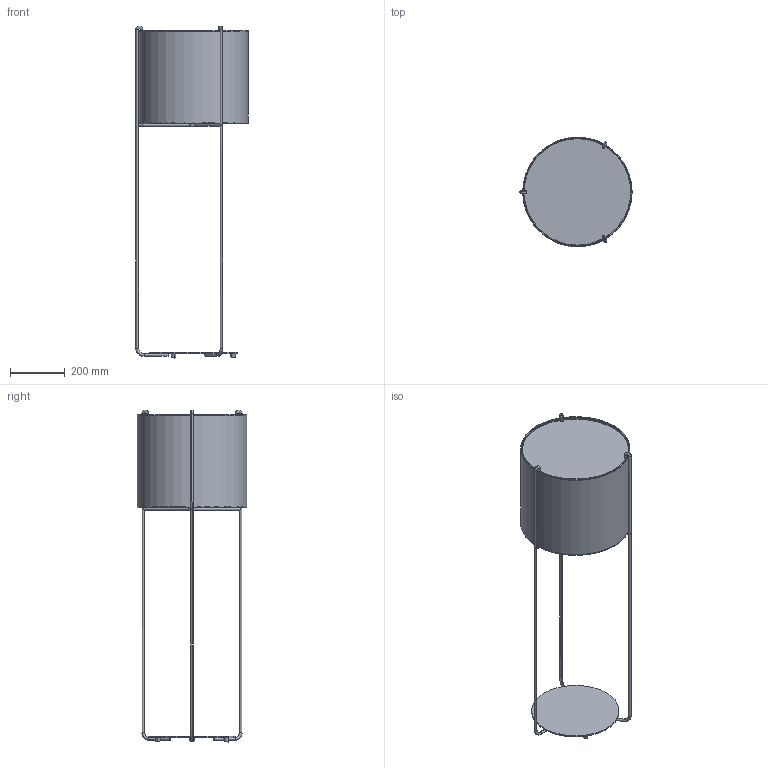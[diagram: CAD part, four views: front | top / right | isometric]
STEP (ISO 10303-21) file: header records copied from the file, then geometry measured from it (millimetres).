
FILE_DESCRIPTION(/* description */ (''),/* implementation_level */ '2;1');
FILE_NAME(/* name */ 'C:\Users\Franco Sartori E\Documents\FARO\Modelos\01_Indoor\DRUM\03_Publicación\24023_DRUM_FLOOR_3D.stp',/* time_stamp */ '2020-04-15T13:46:53+02:00',/* author */ ('Franco Sartori E'),/* organization */ (''),/* preprocessor_version */ 'ST-DEVELOPER v18',/* originating_system */ 'AutoCAD Mechanical',/* authorisation */ '');
FILE_SCHEMA (('AUTOMOTIVE_DESIGN { 1 0 10303 214 3 1 1 }'));
Length unit declared in the file: millimetre
Products named in the file (2): Product; 2P0532_2P0534_DRUM_SHADE - DRUM Beige shade floor lamp-7168-Export
Assembly tree (1 placements, depth 2):
  Product
    2P0532_2P0534_DRUM_SHADE - DRUM Beige shade floor lamp-7168-Export
Bounding box: 411.5 x 401 x 1216 mm (x, y, z)
Volume: 1583187.9 mm3; surface area: 3222056.1 mm2
Topology: 52 solids, 69 shells, 616 faces, 1447 edges, 931 vertices
Faces by surface type: plane 233, cylinder 225, cone 76, torus 58, bspline 24
Entity records: 21277 total; most frequent: CARTESIAN_POINT 7505, DIRECTION 2797, ORIENTED_EDGE 2764, EDGE_CURVE 1429, AXIS2_PLACEMENT_3D 1117, VERTEX_POINT 931, EDGE_LOOP 671, FACE_OUTER_BOUND 616
